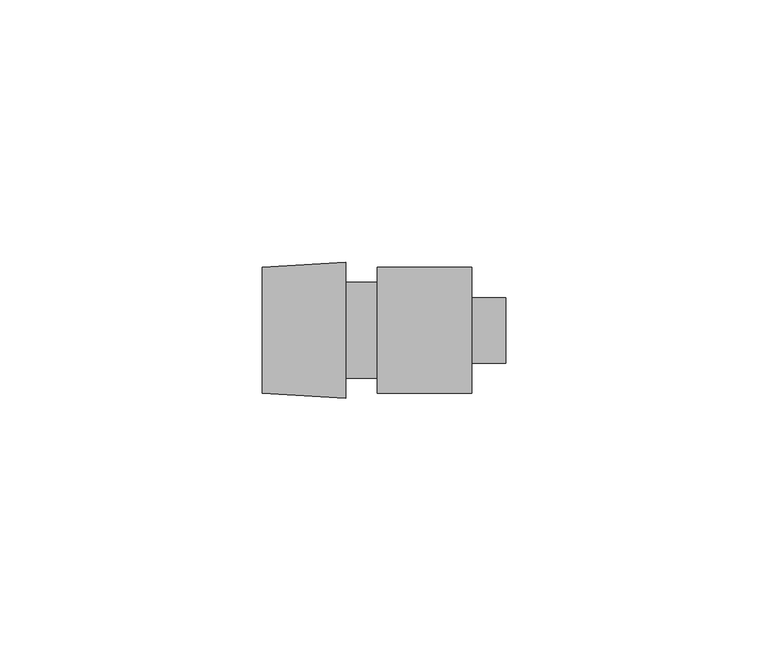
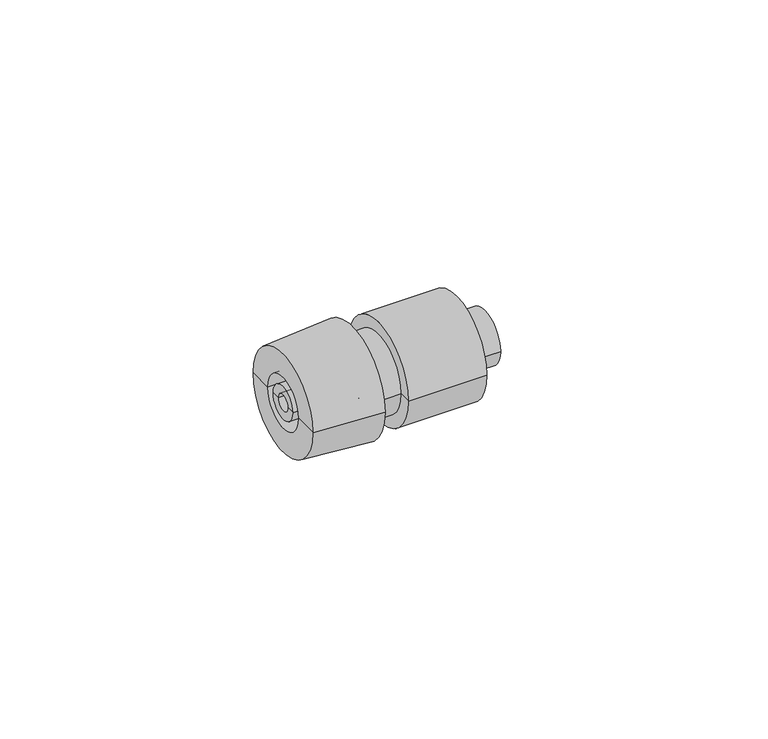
"""IFC4 building model written with IfcOpenShell, lengths in millimetres: cable carrier fitting geometry, КНС_ПереходникАрмированнаяТрубаКоробка_IP65_DKC : Коробка."""

from ifc_helpers import new_model, si_unit, frame, origin, place, context, project, spatial, polyline, circle_curve, source, transform, mapped, element, save
from ifc_brep_helpers import plane_surface, cylinder_surface, revolved_surface, advanced_brep


def cable_carrier_fitting_9d59da82(model_context):
    return source(origin(), model_context, "Body", "AdvancedBrep", [
        advanced_brep(
        [(30.5, -4.1853846, 0.0), (30.5, 4.1853846, 0.0), (0.0, 4.1853846, 0.0), (0.0, -4.1853846, 0.0), (30.5, -6.25, 0.0), (30.5, 6.25, 0.0), (24.0, -6.25, 0.0), (24.0, 6.25, 0.0), (24.0, -12.0, 0.0), (24.0, 12.0, 0.0), (6.0, -12.0, 0.0), (6.0, 12.0, 0.0), (6.0, -9.125, 0.0), (6.0, 9.125, 0.0), (0.0, -9.125, 0.0), (0.0, 9.125, 0.0)],
        [
            (0, 1, circle_curve(frame((30.5, 0.0, 0.0), z_axis=(1.0, 0.0, 0.0), x_axis=(0.0, 1.0, 0.0)), 4.1853846)),
            (1, 2),
            (2, 3, circle_curve(frame((0.0, 0.0, 0.0), z_axis=(-1.0, 0.0, 0.0), x_axis=(0.0, 1.0, 0.0)), 4.1853846)),
            (3, 0),
            (1, 0, circle_curve(frame((30.5, 0.0, 0.0), z_axis=(1.0, 0.0, 0.0), x_axis=(0.0, 1.0, 0.0)), 4.1853846)),
            (3, 2, circle_curve(frame((0.0, 0.0, 0.0), z_axis=(-1.0, 0.0, 0.0), x_axis=(0.0, 1.0, 0.0)), 4.1853846)),
            (4, 5, circle_curve(frame((30.5, 0.0, 0.0), z_axis=(1.0, 0.0, 0.0), x_axis=(0.0, 1.0, 0.0)), 6.25)),
            (5, 1),
            (0, 4),
            (5, 4, circle_curve(frame((30.5, 0.0, 0.0), z_axis=(1.0, 0.0, 0.0), x_axis=(0.0, 1.0, 0.0)), 6.25)),
            (6, 7, circle_curve(frame((24.0, 0.0, 0.0), z_axis=(1.0, 0.0, 0.0), x_axis=(0.0, 1.0, 0.0)), 6.25)),
            (7, 5),
            (4, 6),
            (7, 6, circle_curve(frame((24.0, 0.0, 0.0), z_axis=(1.0, 0.0, 0.0), x_axis=(0.0, 1.0, 0.0)), 6.25)),
            (8, 9, circle_curve(frame((24.0, 0.0, 0.0), z_axis=(1.0, 0.0, 0.0), x_axis=(0.0, 1.0, 0.0)), 12.0)),
            (9, 7),
            (6, 8),
            (9, 8, circle_curve(frame((24.0, 0.0, 0.0), z_axis=(1.0, 0.0, 0.0), x_axis=(0.0, 1.0, 0.0)), 12.0)),
            (10, 11, circle_curve(frame((6.0, 0.0, 0.0), z_axis=(1.0, 0.0, 0.0), x_axis=(0.0, 1.0, 0.0)), 12.0)),
            (11, 9),
            (8, 10),
            (11, 10, circle_curve(frame((6.0, 0.0, 0.0), z_axis=(1.0, 0.0, 0.0), x_axis=(0.0, 1.0, 0.0)), 12.0)),
            (12, 13, circle_curve(frame((6.0, 0.0, 0.0), z_axis=(1.0, 0.0, 0.0), x_axis=(0.0, 1.0, 0.0)), 9.125)),
            (13, 11),
            (10, 12),
            (13, 12, circle_curve(frame((6.0, 0.0, 0.0), z_axis=(1.0, 0.0, 0.0), x_axis=(0.0, 1.0, 0.0)), 9.125)),
            (14, 15, circle_curve(frame((0.0, 0.0, 0.0), z_axis=(1.0, 0.0, 0.0), x_axis=(0.0, 1.0, 0.0)), 9.125)),
            (15, 13),
            (12, 14),
            (15, 14, circle_curve(frame((0.0, 0.0, 0.0), z_axis=(1.0, 0.0, 0.0), x_axis=(0.0, 1.0, 0.0)), 9.125)),
            (2, 15),
            (14, 3),
        ],
        [
            revolved_surface(polyline([(0.0, 4.1853846, 0.0), (30.5, 4.1853846, 0.0)]), (1519.0, 0.0, 0.0), (-1.0, 0.0, 0.0)),
            plane_surface(frame((30.5, 0.0, 0.0), z_axis=(1.0, 0.0, 0.0), x_axis=(0.0, 1.0, 0.0))),
            cylinder_surface(frame((1519.0, 0.0, 0.0), z_axis=(-1.0, 0.0, 0.0), x_axis=(0.0, 1.0, 0.0)), 6.25),
            plane_surface(frame((24.0, 0.0, 0.0), z_axis=(1.0, 0.0, 0.0), x_axis=(0.0, 1.0, 0.0))),
            cylinder_surface(frame((1519.0, 0.0, 0.0), z_axis=(-1.0, 0.0, 0.0), x_axis=(0.0, 1.0, 0.0)), 12.0),
            plane_surface(frame((6.0, 0.0, 0.0), z_axis=(-1.0, 0.0, 0.0), x_axis=(0.0, 1.0, 0.0))),
            cylinder_surface(frame((1519.0, 0.0, 0.0), z_axis=(-1.0, 0.0, 0.0), x_axis=(0.0, 1.0, 0.0)), 9.125),
            plane_surface(frame((0.0, 0.0, 0.0), z_axis=(-1.0, 0.0, 0.0), x_axis=(0.0, 1.0, 0.0))),
        ],
        [
            (0, [[1, 2, 3, 4]]),
            (0, [[5, -4, 6, -2]]),
            (1, [[7, 8, -1, 9]]),
            (1, [[10, -9, -5, -8]]),
            (2, [[11, 12, -7, 13]]),
            (2, [[14, -13, -10, -12]]),
            (3, [[15, 16, -11, 17]]),
            (3, [[18, -17, -14, -16]]),
            (4, [[19, 20, -15, 21]]),
            (4, [[22, -21, -18, -20]]),
            (5, [[23, 24, -19, 25]]),
            (5, [[26, -25, -22, -24]]),
            (6, [[27, 28, -23, 29]]),
            (6, [[30, -29, -26, -28]]),
            (7, [[-3, 31, -27, 32]]),
            (7, [[-6, -32, -30, -31]]),
        ],
    ),
        advanced_brep(
        [(0.0, -13.0, 0.0), (0.0, 13.0, 0.0), (0.0, 6.25, 0.0), (0.0, -6.25, 0.0), (-16.0, -12.0, 0.0), (-16.0, 12.0, 0.0), (-16.0, -6.25, 0.0), (-16.0, 6.25, 0.0)],
        [
            (0, 1, circle_curve(frame((0.0, 0.0, 0.0), z_axis=(1.0, 0.0, 0.0), x_axis=(0.0, 1.0, 0.0)), 13.0)),
            (1, 2),
            (2, 3, circle_curve(frame((0.0, 0.0, 0.0), z_axis=(-1.0, 0.0, 0.0), x_axis=(0.0, 1.0, 0.0)), 6.25)),
            (3, 0),
            (1, 0, circle_curve(frame((0.0, 0.0, 0.0), z_axis=(1.0, 0.0, 0.0), x_axis=(0.0, 1.0, 0.0)), 13.0)),
            (3, 2, circle_curve(frame((0.0, 0.0, 0.0), z_axis=(-1.0, 0.0, 0.0), x_axis=(0.0, 1.0, 0.0)), 6.25)),
            (4, 5, circle_curve(frame((-16.0, 0.0, 0.0), z_axis=(1.0, 0.0, 0.0), x_axis=(0.0, 1.0, 0.0)), 12.0)),
            (5, 1),
            (0, 4),
            (5, 4, circle_curve(frame((-16.0, 0.0, 0.0), z_axis=(1.0, 0.0, 0.0), x_axis=(0.0, 1.0, 0.0)), 12.0)),
            (6, 7, circle_curve(frame((-16.0, 0.0, 0.0), z_axis=(1.0, 0.0, 0.0), x_axis=(0.0, 1.0, 0.0)), 6.25)),
            (7, 5),
            (4, 6),
            (7, 6, circle_curve(frame((-16.0, 0.0, 0.0), z_axis=(1.0, 0.0, 0.0), x_axis=(0.0, 1.0, 0.0)), 6.25)),
            (2, 7),
            (6, 3),
        ],
        [
            plane_surface(frame((0.0, 0.0, 0.0), z_axis=(1.0, 0.0, 0.0), x_axis=(0.0, 1.0, 0.0))),
            revolved_surface(polyline([(0.0, 13.0, 0.0), (-16.0, 12.0, 0.0)]), (1519.0, 0.0, 0.0), (-1.0, 0.0, 0.0)),
            plane_surface(frame((-16.0, 0.0, 0.0), z_axis=(-1.0, 0.0, 0.0), x_axis=(0.0, 1.0, 0.0))),
            revolved_surface(polyline([(-16.0, 6.25, 0.0), (0.0, 6.25, 0.0)]), (1519.0, 0.0, 0.0), (-1.0, 0.0, 0.0)),
        ],
        [
            (0, [[1, 2, 3, 4]]),
            (0, [[5, -4, 6, -2]]),
            (1, [[7, 8, -1, 9]]),
            (1, [[10, -9, -5, -8]]),
            (2, [[11, 12, -7, 13]]),
            (2, [[14, -13, -10, -12]]),
            (3, [[-3, 15, -11, 16]]),
            (3, [[-6, -16, -14, -15]]),
        ],
    ),
        advanced_brep(
        [(-16.0, -4.0, 0.0), (-16.0, 4.0, 0.0), (0.0, 4.0, 0.0), (0.0, -4.0, 0.0), (-16.0, -2.0, 0.0), (-16.0, 2.0, 0.0), (0.0, -2.0, 0.0), (0.0, 2.0, 0.0)],
        [
            (0, 1, circle_curve(frame((-16.0, 0.0, 0.0), z_axis=(1.0, 0.0, 0.0), x_axis=(0.0, 1.0, 0.0)), 4.0)),
            (1, 2),
            (2, 3, circle_curve(frame((0.0, 0.0, 0.0), z_axis=(-1.0, 0.0, 0.0), x_axis=(0.0, 1.0, 0.0)), 4.0)),
            (3, 0),
            (1, 0, circle_curve(frame((-16.0, 0.0, 0.0), z_axis=(1.0, 0.0, 0.0), x_axis=(0.0, 1.0, 0.0)), 4.0)),
            (3, 2, circle_curve(frame((0.0, 0.0, 0.0), z_axis=(-1.0, 0.0, 0.0), x_axis=(0.0, 1.0, 0.0)), 4.0)),
            (4, 5, circle_curve(frame((-16.0, 0.0, 0.0), z_axis=(1.0, 0.0, 0.0), x_axis=(0.0, 1.0, 0.0)), 2.0)),
            (5, 1),
            (0, 4),
            (5, 4, circle_curve(frame((-16.0, 0.0, 0.0), z_axis=(1.0, 0.0, 0.0), x_axis=(0.0, 1.0, 0.0)), 2.0)),
            (6, 7, circle_curve(frame((0.0, 0.0, 0.0), z_axis=(1.0, 0.0, 0.0), x_axis=(0.0, 1.0, 0.0)), 2.0)),
            (7, 5),
            (4, 6),
            (7, 6, circle_curve(frame((0.0, 0.0, 0.0), z_axis=(1.0, 0.0, 0.0), x_axis=(0.0, 1.0, 0.0)), 2.0)),
            (2, 7),
            (6, 3),
        ],
        [
            cylinder_surface(frame((1519.0, 0.0, 0.0), z_axis=(-1.0, 0.0, 0.0), x_axis=(0.0, 1.0, 0.0)), 4.0),
            plane_surface(frame((-16.0, 0.0, 0.0), z_axis=(-1.0, 0.0, 0.0), x_axis=(0.0, 1.0, 0.0))),
            revolved_surface(polyline([(-16.0, 2.0, 0.0), (0.0, 2.0, 0.0)]), (1519.0, 0.0, 0.0), (-1.0, 0.0, 0.0)),
            plane_surface(frame((0.0, 0.0, 0.0), z_axis=(1.0, 0.0, 0.0), x_axis=(0.0, 1.0, 0.0))),
        ],
        [
            (0, [[1, 2, 3, 4]]),
            (0, [[5, -4, 6, -2]]),
            (1, [[7, 8, -1, 9]]),
            (1, [[10, -9, -5, -8]]),
            (2, [[11, 12, -7, 13]]),
            (2, [[14, -13, -10, -12]]),
            (3, [[-3, 15, -11, 16]]),
            (3, [[-6, -16, -14, -15]]),
        ],
    ),
    ])


if __name__ == "__main__":
    model = new_model("IFC4")
    model_context = context("Model", 3, world=origin())
    ifc_project = project(units=[si_unit("LENGTHUNIT", "METRE", prefix="MILLI")], contexts=[model_context])
    site = spatial("IfcSite", under=ifc_project)
    building = spatial("IfcBuilding", under=site)
    placement = place(None, origin())
    cable_carrier_fitting_shape = cable_carrier_fitting_9d59da82(model_context)
    element("IfcCableCarrierFitting", 1, ObjectType="КНС_ПереходникАрмированнаяТрубаКоробка_IP65_DKC : Коробка", at=placement, inside=building, context=model_context, shape_type="MappedRepresentation", body=[
        mapped(cable_carrier_fitting_shape, transform((0.0, 0.0, 0.0), x_axis=(1.0, 0.0, 0.0), y_axis=(0.0, 1.0, 0.0), z_axis=(0.0, 0.0, 1.0))),
    ])
    save(model, "model.ifc")
